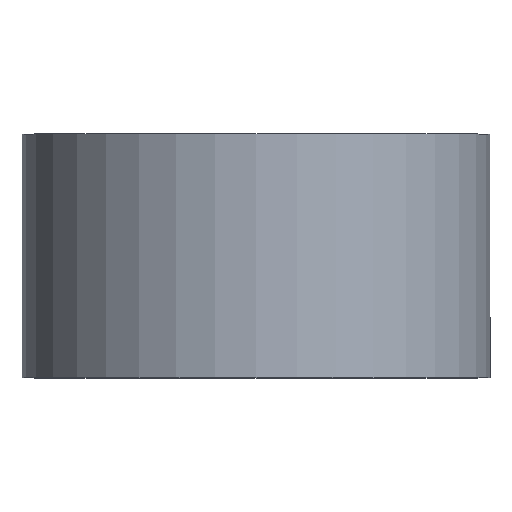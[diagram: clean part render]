
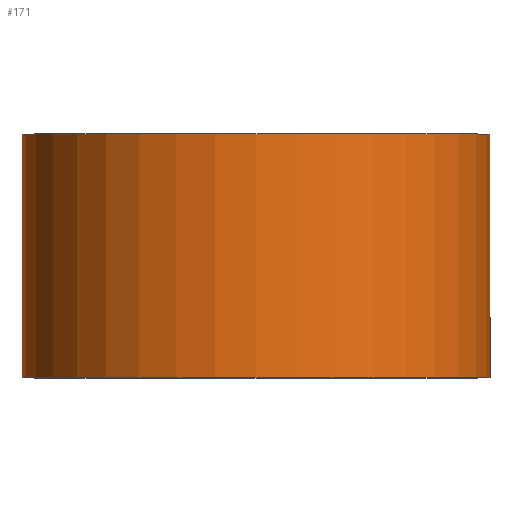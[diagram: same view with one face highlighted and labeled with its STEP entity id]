
A CAD part, top view. The second image highlights one B-rep face of the part: STEP entity #171.
In plain terms, the highlighted cylindrical face has radius 24 mm (diameter 48 mm), a partial arc.
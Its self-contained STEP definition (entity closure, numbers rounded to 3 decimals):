
#7 = CARTESIAN_POINT ( 'NONE',  ( -24., 25., 0. ) ) ;
#8 = VECTOR ( 'NONE', #219, 1000. ) ;
#12 = CYLINDRICAL_SURFACE ( 'NONE', #263, 24. ) ;
#28 = CIRCLE ( 'NONE', #71, 24. ) ;
#32 = DIRECTION ( 'NONE',  ( -1., 0., 0. ) ) ;
#42 = EDGE_CURVE ( 'NONE', #47, #266, #28, .T. ) ;
#43 = VERTEX_POINT ( 'NONE', #7 ) ;
#47 = VERTEX_POINT ( 'NONE', #147 ) ;
#50 = DIRECTION ( 'NONE',  ( 0., 1., 0. ) ) ;
#56 = EDGE_CURVE ( 'NONE', #43, #69, #108, .T. ) ;
#57 = CARTESIAN_POINT ( 'NONE',  ( 0., 0., 0. ) ) ;
#58 = CARTESIAN_POINT ( 'NONE',  ( -24., 0., 0. ) ) ;
#69 = VERTEX_POINT ( 'NONE', #96 ) ;
#71 = AXIS2_PLACEMENT_3D ( 'NONE', #245, #269, #191 ) ;
#96 = CARTESIAN_POINT ( 'NONE',  ( 24., 25., 0. ) ) ;
#103 = ORIENTED_EDGE ( 'NONE', *, *, #104, .F. ) ;
#104 = EDGE_CURVE ( 'NONE', #47, #43, #204, .T. ) ;
#105 = DIRECTION ( 'NONE',  ( 0., 1., 0. ) ) ;
#107 = DIRECTION ( 'NONE',  ( 0., 1., 0. ) ) ;
#108 = CIRCLE ( 'NONE', #228, 24. ) ;
#120 = EDGE_CURVE ( 'NONE', #266, #69, #216, .T. ) ;
#144 = ORIENTED_EDGE ( 'NONE', *, *, #120, .T. ) ;
#147 = CARTESIAN_POINT ( 'NONE',  ( -24., 0., 0. ) ) ;
#159 = CARTESIAN_POINT ( 'NONE',  ( 24., 0., 0. ) ) ;
#168 = CARTESIAN_POINT ( 'NONE',  ( 0., 25., 0. ) ) ;
#171 = ADVANCED_FACE ( 'NONE', ( #181 ), #12, .T. ) ;
#177 = EDGE_LOOP ( 'NONE', ( #207, #144, #251, #103 ) ) ;
#181 = FACE_OUTER_BOUND ( 'NONE', #177, .T. ) ;
#191 = DIRECTION ( 'NONE',  ( -1., 0., 0. ) ) ;
#198 = CARTESIAN_POINT ( 'NONE',  ( 24., 0., 0. ) ) ;
#204 = LINE ( 'NONE', #58, #261 ) ;
#207 = ORIENTED_EDGE ( 'NONE', *, *, #42, .T. ) ;
#209 = DIRECTION ( 'NONE',  ( -1., 0., 0. ) ) ;
#216 = LINE ( 'NONE', #198, #8 ) ;
#219 = DIRECTION ( 'NONE',  ( 0., 1., 0. ) ) ;
#228 = AXIS2_PLACEMENT_3D ( 'NONE', #168, #50, #209 ) ;
#245 = CARTESIAN_POINT ( 'NONE',  ( 0., 0., 0. ) ) ;
#251 = ORIENTED_EDGE ( 'NONE', *, *, #56, .F. ) ;
#261 = VECTOR ( 'NONE', #105, 1000. ) ;
#263 = AXIS2_PLACEMENT_3D ( 'NONE', #57, #107, #32 ) ;
#266 = VERTEX_POINT ( 'NONE', #159 ) ;
#269 = DIRECTION ( 'NONE',  ( 0., 1., 0. ) ) ;
